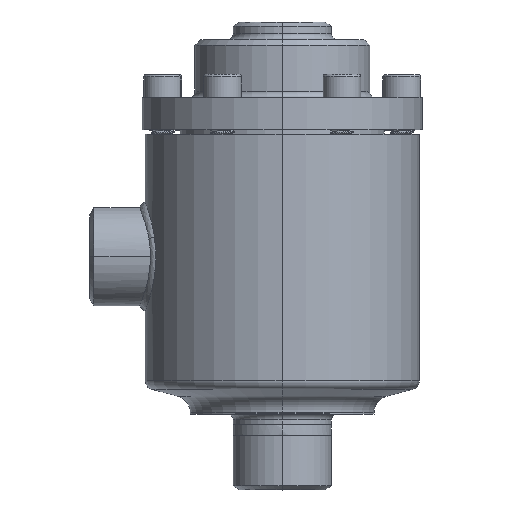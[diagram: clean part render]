
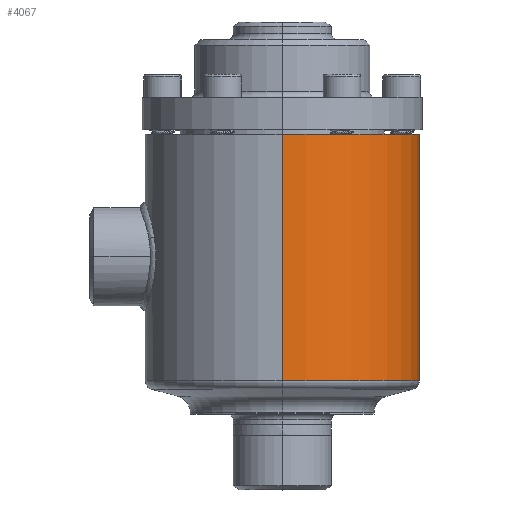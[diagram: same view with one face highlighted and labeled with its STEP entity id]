
A CAD part, top view. The second image highlights one B-rep face of the part: STEP entity #4067.
In plain terms, the highlighted cylindrical face has radius 47 mm (diameter 94 mm), a partial arc.
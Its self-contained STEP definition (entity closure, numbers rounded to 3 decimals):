
#16502 = ORIENTED_EDGE ( 'NONE', *, *, #16141, .F. ) ;
#374 = CARTESIAN_POINT ( 'NONE',  ( 0., 80.527, -47. ) ) ;
#17007 = VERTEX_POINT ( 'NONE', #19450 ) ;
#17232 = EDGE_CURVE ( 'NONE', #17007, #18729, #21963, .T. ) ;
#873 = LINE ( 'NONE', #874, #875 ) ;
#874 = CARTESIAN_POINT ( 'NONE',  ( 0., 76.795, -47. ) ) ;
#875 = VECTOR ( 'NONE', #876, 1000. ) ;
#876 = DIRECTION ( 'NONE',  ( 0., 1., 0. ) ) ;
#17789 = ORIENTED_EDGE ( 'NONE', *, *, #17232, .F. ) ;
#18729 = VERTEX_POINT ( 'NONE', #374 ) ;
#19141 = EDGE_CURVE ( 'NONE', #10452, #18729, #873, .T. ) ;
#2981 = ORIENTED_EDGE ( 'NONE', *, *, #13266, .T. ) ;
#19450 = CARTESIAN_POINT ( 'NONE',  ( 0., 80.527, 47. ) ) ;
#19822 = ORIENTED_EDGE ( 'NONE', *, *, #19141, .T. ) ;
#3621 = EDGE_LOOP ( 'NONE', ( #2981, #19822, #17789, #16502 ) ) ;
#4067 = ADVANCED_FACE ( 'NONE', ( #21777 ), #21778, .T. ) ;
#20755 = CARTESIAN_POINT ( 'NONE',  ( 0., -4.017, 47. ) ) ;
#20854 = CIRCLE ( 'NONE', #20855, 47. ) ;
#20855 = AXIS2_PLACEMENT_3D ( 'NONE', #20856, #20857, #20858 ) ;
#20856 = CARTESIAN_POINT ( 'NONE',  ( 0., -4.017, 0. ) ) ;
#20857 = DIRECTION ( 'NONE',  ( 0., 1., 0. ) ) ;
#20858 = DIRECTION ( 'NONE',  ( 0., 0., 1. ) ) ;
#21777 = FACE_OUTER_BOUND ( 'NONE', #3621, .T. ) ;
#21778 = CYLINDRICAL_SURFACE ( 'NONE', #21779, 47. ) ;
#21779 = AXIS2_PLACEMENT_3D ( 'NONE', #21780, #21781, #21782 ) ;
#21780 = CARTESIAN_POINT ( 'NONE',  ( 0., 76.795, 0. ) ) ;
#21781 = DIRECTION ( 'NONE',  ( 0., 1., 0. ) ) ;
#21782 = DIRECTION ( 'NONE',  ( 0., 0., 1. ) ) ;
#21963 = CIRCLE ( 'NONE', #21964, 47. ) ;
#21964 = AXIS2_PLACEMENT_3D ( 'NONE', #21965, #21966, #21967 ) ;
#21965 = CARTESIAN_POINT ( 'NONE',  ( 0., 80.527, 0. ) ) ;
#21966 = DIRECTION ( 'NONE',  ( 0., 1., 0. ) ) ;
#21967 = DIRECTION ( 'NONE',  ( 0., 0., 1. ) ) ;
#7762 = CARTESIAN_POINT ( 'NONE',  ( 0., -4.017, -47. ) ) ;
#10452 = VERTEX_POINT ( 'NONE', #7762 ) ;
#12921 = LINE ( 'NONE', #12922, #12923 ) ;
#12922 = CARTESIAN_POINT ( 'NONE',  ( 0., 76.795, 47. ) ) ;
#12923 = VECTOR ( 'NONE', #12924, 1000. ) ;
#12924 = DIRECTION ( 'NONE',  ( 0., 1., 0. ) ) ;
#13059 = VERTEX_POINT ( 'NONE', #20755 ) ;
#13266 = EDGE_CURVE ( 'NONE', #13059, #10452, #20854, .T. ) ;
#16141 = EDGE_CURVE ( 'NONE', #13059, #17007, #12921, .T. ) ;
